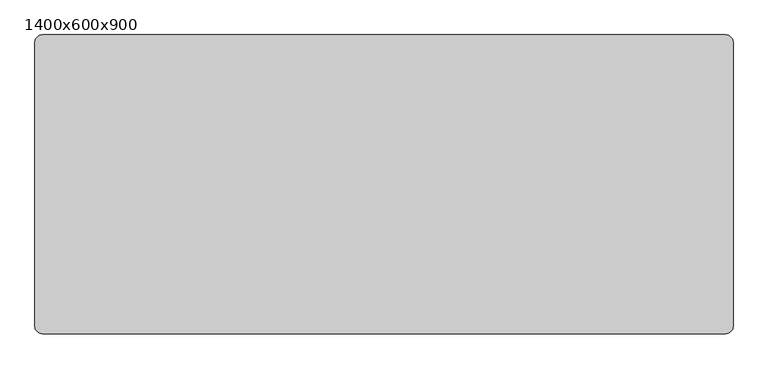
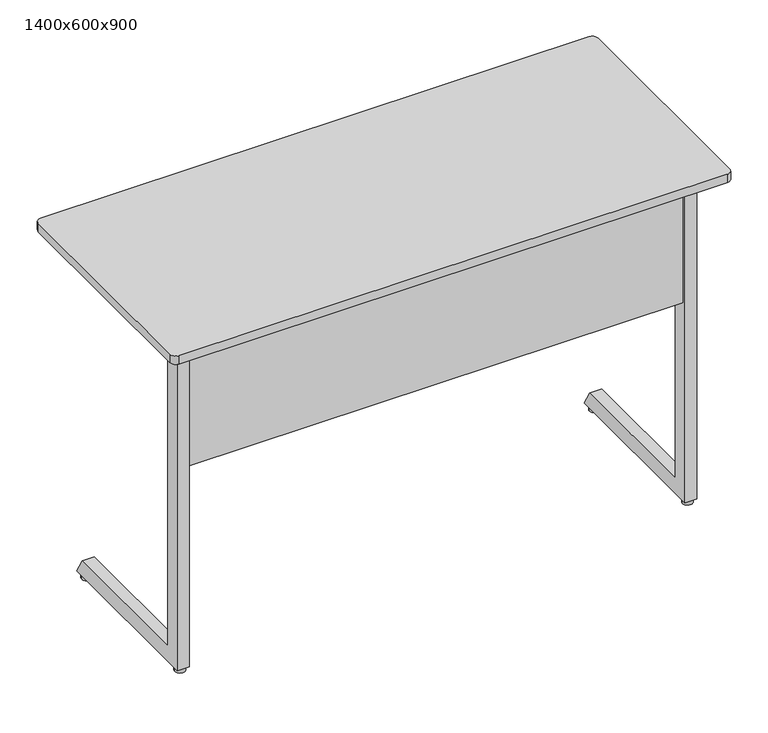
"""IFC4 building model written with IfcOpenShell, lengths in millimetres: furniture geometry, Trivia Light : 1400x600x900."""

import ifcopenshell
import ifcopenshell.guid

model = None  # the IFC model being written
_history = None  # IfcOwnerHistory: only IFC2X3 demands one
_inside = {}  # id of a spatial element -> (the spatial element, [elements in it])
_under = {}  # id of a project, library or spatial element -> (it, [spatial elements below it])
_declared = {}  # id of a project -> (the project, [libraries it declares])
_typed = {}  # id of a type object -> (the type object, [elements of that type])
_made_of = {}  # id of a material, layer set ... -> (it, [elements and type objects made of it])


def new_model(schema):
    """Start an empty IFC model of exactly this schema.

    Asked for "IFC4X3", IfcOpenShell would pick the latest addendum, in which some entities
    have other attributes; the version numbers below select the first issue.
    IFC2X3 requires an IfcOwnerHistory on every rooted entity: one is made here for all.
    """
    global model, _history
    if schema == "IFC4X3":
        model = ifcopenshell.file(schema_version=(4, 3, 0, 0))
    else:
        model = ifcopenshell.file(schema=schema)
    _inside.clear()
    _under.clear()
    _declared.clear()
    _typed.clear()
    _made_of.clear()
    _history = None
    if model.schema == "IFC2X3":
        org = make("IfcOrganization", Name="unknown")
        user = make(
            "IfcPersonAndOrganization",
            ThePerson=make("IfcPerson", FamilyName="unknown"),
            TheOrganization=org,
        )
        app = make(
            "IfcApplication",
            ApplicationDeveloper=org,
            Version="unknown",
            ApplicationFullName="unknown",
            ApplicationIdentifier="unknown",
        )
        _history = make(
            "IfcOwnerHistory",
            OwningUser=user,
            OwningApplication=app,
            ChangeAction="ADDED",
            CreationDate=0,
        )
    return model


def make(cls, **values):
    """One entity of the class cls with the attributes given. An attribute that is None is left unset."""
    return model.create_entity(
        cls, **{name: value for name, value in values.items() if value is not None}
    )


def rooted(cls, **values):
    """An entity with a GlobalId (a new one), such as an element, a storey or a relation."""
    return make(cls, GlobalId=ifcopenshell.guid.new(), OwnerHistory=_history, **values)


def si_unit(unit_type, name, prefix=None):
    """IfcSIUnit, for example si_unit("LENGTHUNIT", "METRE", prefix="MILLI")."""
    return make("IfcSIUnit", UnitType=unit_type, Prefix=prefix, Name=name)


def assignment(units):
    """IfcUnitAssignment: the units of a project."""
    return None if units is None else make("IfcUnitAssignment", Units=units)


def point(xyz):
    """IfcCartesianPoint."""
    return None if xyz is None else make("IfcCartesianPoint", Coordinates=xyz)


def direction(xyz):
    """IfcDirection."""
    return None if xyz is None else make("IfcDirection", DirectionRatios=xyz)


def frame(location, z_axis=None, x_axis=None):
    """IfcAxis2Placement3D, a coordinate frame: its origin and axes. An axis left out is left unset."""
    return make(
        "IfcAxis2Placement3D",
        Location=point(location),
        Axis=direction(z_axis),
        RefDirection=direction(x_axis),
    )


def frame_2d(location, x_axis=None):
    """IfcAxis2Placement2D, a coordinate frame in the plane: its origin and x axis."""
    return make(
        "IfcAxis2Placement2D", Location=point(location), RefDirection=direction(x_axis)
    )


def origin():
    """The frame at (0, 0, 0) with its axes left unset."""
    return frame((0.0, 0.0, 0.0))


def origin_with_axes():
    """The frame at (0, 0, 0) with the z axis (0, 0, 1) and the x axis (1, 0, 0) written out."""
    return frame((0.0, 0.0, 0.0), z_axis=(0.0, 0.0, 1.0), x_axis=(1.0, 0.0, 0.0))


def place(relative_to, where):
    """IfcLocalPlacement: puts the frame where relative to a parent placement (None: the world)."""
    return make(
        "IfcLocalPlacement", PlacementRelTo=relative_to, RelativePlacement=where
    )


def context(
    kind, dimensions, precision=None, world=None, true_north=None, identifier=None
):
    """IfcGeometricRepresentationContext, for example the 3D "Model" context."""
    return make(
        "IfcGeometricRepresentationContext",
        ContextIdentifier=identifier,
        ContextType=kind,
        CoordinateSpaceDimension=dimensions,
        Precision=precision,
        WorldCoordinateSystem=world,
        TrueNorth=true_north,
    )


def project(units=None, contexts=None):
    """IfcProject with its units and contexts."""
    return rooted(
        "IfcProject",
        Name="project",
        RepresentationContexts=contexts,
        UnitsInContext=assignment(units),
    )


def spatial(cls, under=None, at=None, **own):
    """A site, building, storey or space (cls), placed at a placement, below another one or the project."""
    s = rooted(cls, ObjectPlacement=at, **own)
    if under is not None:
        _under.setdefault(under.id(), (under, []))[1].append(s)
    return s


def polyline(points):
    """IfcPolyline through the points."""
    return make("IfcPolyline", Points=[point(p) for p in points])


def circle_curve(where, radius):
    """IfcCircle in the frame where."""
    return make("IfcCircle", Position=where, Radius=radius)


def trimmed(basis, trim1, trim2, sense, master):
    """IfcTrimmedCurve: the piece of a basis curve between two trims."""
    return make(
        "IfcTrimmedCurve",
        BasisCurve=basis,
        Trim1=trim1,
        Trim2=trim2,
        SenseAgreement=sense,
        MasterRepresentation=master,
    )


def segment(curve, same_sense, transition):
    """IfcCompositeCurveSegment."""
    return make(
        "IfcCompositeCurveSegment",
        Transition=transition,
        SameSense=same_sense,
        ParentCurve=curve,
    )


def composite_curve(segments, self_intersect=None):
    """IfcCompositeCurve: segments joined end to end."""
    return make("IfcCompositeCurve", Segments=segments, SelfIntersect=self_intersect)


def outline(outer, holes=None, kind="AREA"):
    """IfcArbitraryClosedProfileDef: a profile drawn as a closed curve; with holes, ...WithVoids."""
    if holes is None:
        return make("IfcArbitraryClosedProfileDef", ProfileType=kind, OuterCurve=outer)
    return make(
        "IfcArbitraryProfileDefWithVoids",
        ProfileType=kind,
        OuterCurve=outer,
        InnerCurves=holes,
    )


def extrude(swept, where, along, depth):
    """IfcExtrudedAreaSolid: the profile swept, set in the frame where, extruded along a direction by depth."""
    return make(
        "IfcExtrudedAreaSolid",
        SweptArea=swept,
        Position=where,
        ExtrudedDirection=direction(along),
        Depth=depth,
    )


def shape(context_of_items, identifier, shape_type, items):
    """IfcShapeRepresentation: the items that make up one representation, for example the "Body"."""
    return make(
        "IfcShapeRepresentation",
        ContextOfItems=context_of_items,
        RepresentationIdentifier=identifier,
        RepresentationType=shape_type,
        Items=items,
    )


def source(mapping_origin, context_of_items, identifier, shape_type, items):
    """IfcRepresentationMap: a shape defined once, which mapped items show again and again."""
    return make(
        "IfcRepresentationMap",
        MappingOrigin=mapping_origin,
        MappedRepresentation=shape(context_of_items, identifier, shape_type, items),
    )


def transform(
    local_origin,
    x_axis=None,
    y_axis=None,
    z_axis=None,
    scale=None,
    scale2=None,
    scale3=None,
    uniform=True,
):
    """IfcCartesianTransformationOperator3D, or its non-uniform kind. x_axis, y_axis, z_axis: its Axis1, 2, 3."""
    if uniform:
        return make(
            "IfcCartesianTransformationOperator3D",
            Axis1=direction(x_axis),
            Axis2=direction(y_axis),
            LocalOrigin=point(local_origin),
            Scale=scale,
            Axis3=direction(z_axis),
        )
    return make(
        "IfcCartesianTransformationOperator3DnonUniform",
        Axis1=direction(x_axis),
        Axis2=direction(y_axis),
        LocalOrigin=point(local_origin),
        Scale=scale,
        Axis3=direction(z_axis),
        Scale2=scale2,
        Scale3=scale3,
    )


def mapped(mapping_source, mapping_target):
    """IfcMappedItem: shows the shape of a source again, moved by a transform."""
    return make(
        "IfcMappedItem", MappingSource=mapping_source, MappingTarget=mapping_target
    )


def made_of(thing, what):
    """Note that an element or type object is made of a material, layer set ...; save() writes the relation."""
    if what is not None:
        _made_of.setdefault(what.id(), (what, []))[1].append(thing)
    return thing


def element(
    cls,
    number,
    at=None,
    inside=None,
    cuts=None,
    type_object=None,
    material=None,
    context=None,
    identifier="Body",
    shape_type=None,
    held_by="IfcProductDefinitionShape",
    body=None,
    shapes=None,
    **own,
):
    """One element of the class cls, such as IfcWall. Its Tag is "e" and its number.

    at: its placement. inside: the storey or other place that contains it. cuts: it is an
    opening in that element (IfcRelVoidsElement). A single representation is given by context,
    identifier, shape_type and body (its items); several are given by shapes. held_by: the class
    of the entity that holds the representations. save() writes the other relations.
    """
    e = rooted(cls, Tag="e%d" % number, ObjectPlacement=at, **own)
    if body is not None:
        shapes = [shape(context, identifier, shape_type, body)]
    if shapes is not None:
        e.Representation = make(held_by, Representations=shapes)
    if inside is not None:
        _inside.setdefault(inside.id(), (inside, []))[1].append(e)
    if cuts is not None:
        rooted(
            "IfcRelVoidsElement", RelatingBuildingElement=cuts, RelatedOpeningElement=e
        )
    if type_object is not None:
        _typed.setdefault(type_object.id(), (type_object, []))[1].append(e)
    return made_of(e, material)


def aggregate(whole, parts):
    """IfcRelAggregates: a whole, such as a stair, and the parts it consists of."""
    return rooted("IfcRelAggregates", RelatingObject=whole, RelatedObjects=parts)


def save(model, path):
    """Write the relations noted so far, then the file.

    IfcRelAggregates (storeys below a building ...), IfcRelContainedInSpatialStructure (elements
    in a storey), IfcRelDefinesByType, IfcRelAssociatesMaterial and IfcRelDeclares: one each for
    every whole, place, type object, material and project.
    """
    for whole, parts in _under.values():
        aggregate(whole, parts)
    for where, things in _inside.values():
        rooted(
            "IfcRelContainedInSpatialStructure",
            RelatedElements=things,
            RelatingStructure=where,
        )
    for kind, things in _typed.values():
        rooted("IfcRelDefinesByType", RelatedObjects=things, RelatingType=kind)
    for what, things in _made_of.values():
        rooted("IfcRelAssociatesMaterial", RelatedObjects=things, RelatingMaterial=what)
    for by, libraries in _declared.values():
        rooted("IfcRelDeclares", RelatingContext=by, RelatedDefinitions=libraries)
    model.write(path)


def furniture_1400x600x900_cad80be3(model_context):
    return source(origin(), model_context, "Body", "SweptSolid", [
        extrude(outline(polyline([(484.5100173, 878.0), (469.9996059, 846.4981092), (104.0, 846.4977978), (104.0, 878.0), (484.5100173, 878.0)])), frame((-564.7535601, 0.0, 0.0), z_axis=(1.0, 0.0, 0.0), x_axis=(0.0, 1.0, 0.0)), (0.0, 0.0, 1.0), 30.0),
        extrude(outline(polyline([(873.7997437, -567.7502136), (850.730957, -567.7502136), (850.730957, -599.8065042), (855.0394353, -611.6439509), (852.2203574, -612.6700113), (847.730957, -600.3354852), (847.730957, -564.7502136), (873.7997437, -564.7502136), (873.7997437, -567.7502136)])), frame((0.0, 265.0, 0.0), z_axis=(0.0, 1.0, 0.0), x_axis=(0.0, 0.0, 1.0)), (0.0, 0.0, 1.0), 30.0),
        extrude(outline(polyline([(873.7997437, 567.7535601), (873.7997437, 564.7535601), (847.730957, 564.7535601), (847.730957, 600.3388316), (852.2203574, 612.6733577), (855.0394353, 611.6472973), (850.730957, 599.8098507), (850.730957, 567.7535601), (873.7997437, 567.7535601)])), frame((0.0, 265.0, 0.0), z_axis=(0.0, 1.0, 0.0), x_axis=(0.0, 0.0, 1.0)), (0.0, 0.0, 1.0), 30.0),
        extrude(outline(composite_curve([segment(trimmed(circle_curve(frame_2d((-635.0, 85.0)), 13.0), [point((-648.0, 85.0))], [point((-622.0, 85.0))], False, "CARTESIAN"), True, "CONTINUOUS"), segment(trimmed(circle_curve(frame_2d((-635.0, 85.0)), 13.0), [point((-622.0, 85.0))], [point((-648.0, 85.0))], False, "CARTESIAN"), True, "CONTINUOUS")], self_intersect=False)), origin_with_axes(), (0.0, 0.0, 1.0), 13.0905762),
        extrude(outline(composite_curve([segment(trimmed(circle_curve(frame_2d((635.0, 85.0)), 13.0), [point((622.0, 85.0))], [point((648.0, 85.0))], False, "CARTESIAN"), True, "CONTINUOUS"), segment(trimmed(circle_curve(frame_2d((635.0, 85.0)), 13.0), [point((648.0, 85.0))], [point((622.0, 85.0))], False, "CARTESIAN"), True, "CONTINUOUS")], self_intersect=False)), origin_with_axes(), (0.0, 0.0, 1.0), 13.0905762),
        extrude(outline(composite_curve([segment(trimmed(circle_curve(frame_2d((635.0, 487.5)), 13.0), [point((622.0, 487.5))], [point((648.0, 487.5))], False, "CARTESIAN"), True, "CONTINUOUS"), segment(trimmed(circle_curve(frame_2d((635.0, 487.5)), 13.0), [point((648.0, 487.5))], [point((622.0, 487.5))], False, "CARTESIAN"), True, "CONTINUOUS")], self_intersect=False)), origin_with_axes(), (0.0, 0.0, 1.0), 13.0905762),
        extrude(outline(composite_curve([segment(trimmed(circle_curve(frame_2d((-635.0, 487.5)), 13.0), [point((-648.0, 487.5))], [point((-622.0, 487.5))], False, "CARTESIAN"), True, "CONTINUOUS"), segment(trimmed(circle_curve(frame_2d((-635.0, 487.5)), 13.0), [point((-622.0, 487.5))], [point((-648.0, 487.5))], False, "CARTESIAN"), True, "CONTINUOUS")], self_intersect=False)), origin_with_axes(), (0.0, 0.0, 1.0), 13.0905762),
        extrude(outline(polyline([(484.5100173, 878.0), (469.9996059, 846.4981092), (104.0, 846.4977978), (104.0, 878.0), (484.5100173, 878.0)])), frame((534.7535601, 0.0, 0.0), z_axis=(1.0, 0.0, 0.0), x_axis=(0.0, 1.0, 0.0)), (0.0, 0.0, 1.0), 30.0),
        extrude(outline(composite_curve([segment(trimmed(circle_curve(frame_2d((685.0, 585.0)), 15.0), [point((685.0, 600.0))], [point((700.0, 585.0))], False, "CARTESIAN"), True, "CONTINUOUS"), segment(polyline([(700.0, 585.0), (700.0, 15.0)]), True, "CONTINUOUS"), segment(trimmed(circle_curve(frame_2d((685.0, 15.0)), 15.0), [point((700.0, 15.0))], [point((685.0, 0.0))], False, "CARTESIAN"), True, "CONTINUOUS"), segment(polyline([(685.0, 0.0), (-685.0, 0.0)]), True, "CONTINUOUS"), segment(trimmed(circle_curve(frame_2d((-685.0, 15.0)), 15.0), [point((-685.0, 0.0))], [point((-700.0, 15.0))], False, "CARTESIAN"), True, "CONTINUOUS"), segment(polyline([(-700.0, 15.0), (-700.0, 585.0)]), True, "CONTINUOUS"), segment(trimmed(circle_curve(frame_2d((-685.0, 585.0)), 15.0), [point((-700.0, 585.0))], [point((-685.0, 600.0))], False, "CARTESIAN"), True, "CONTINUOUS"), segment(polyline([(-685.0, 600.0), (685.0, 600.0)]), True, "CONTINUOUS")], self_intersect=False)), frame((0.0, 0.0, 878.0), z_axis=(0.0, 0.0, 1.0), x_axis=(1.0, 0.0, 0.0)), (0.0, 0.0, 1.0), 22.0),
        extrude(outline(polyline([(619.7534307, 104.0), (619.7534307, 74.0), (-619.7534307, 74.0), (-619.7534307, 104.0), (619.7534307, 104.0)])), frame((0.0, 0.0, 836.0), z_axis=(0.0, 0.0, 1.0), x_axis=(1.0, 0.0, 0.0)), (0.0, 0.0, 1.0), 42.0),
        extrude(outline(polyline([(112.0, 51.5905762), (482.1448423, 51.5905762), (504.8944033, 11.5905762), (70.0, 11.5905762), (70.0, 878.0), (112.0, 878.0), (112.0, 51.5905762)])), frame((-649.7535601, 0.0, 0.0), z_axis=(1.0, 0.0, 0.0), x_axis=(0.0, 1.0, 0.0)), (0.0, 0.0, 1.0), 30.0001294),
        extrude(outline(polyline([(112.0, 51.5905762), (482.1448423, 51.5905762), (504.8944033, 11.5905762), (70.0, 11.5905762), (70.0, 878.0), (112.0, 878.0), (112.0, 51.5905762)])), frame((619.7534307, 0.0, 0.0), z_axis=(1.0, 0.0, 0.0), x_axis=(0.0, 1.0, 0.0)), (0.0, 0.0, 1.0), 30.0001294),
        extrude(outline(polyline([(619.7534307, 95.9187166), (619.7534307, 77.9321552), (-619.7534307, 77.9321552), (-619.7534307, 95.9187166), (619.7534307, 95.9187166)])), frame((0.0, 0.0, 536.5950628), z_axis=(0.0, 0.0, 1.0), x_axis=(1.0, 0.0, 0.0)), (0.0, 0.0, 1.0), 299.4049372),
    ])


if __name__ == "__main__":
    model = new_model("IFC4")
    model_context = context("Model", 3, world=origin())
    ifc_project = project(units=[si_unit("LENGTHUNIT", "METRE", prefix="MILLI")], contexts=[model_context])
    site = spatial("IfcSite", under=ifc_project)
    building = spatial("IfcBuilding", under=site)
    placement = place(None, origin())
    furniture_1400x600x900_shape = furniture_1400x600x900_cad80be3(model_context)
    element("IfcFurniture", 1, ObjectType="Trivia Light : 1400x600x900", at=placement, inside=building, context=model_context, shape_type="MappedRepresentation", body=[
        mapped(furniture_1400x600x900_shape, transform((0.0, 0.0, 0.0), x_axis=(1.0, 0.0, 0.0), y_axis=(0.0, 1.0, 0.0), z_axis=(0.0, 0.0, 1.0))),
    ])
    save(model, "model.ifc")
